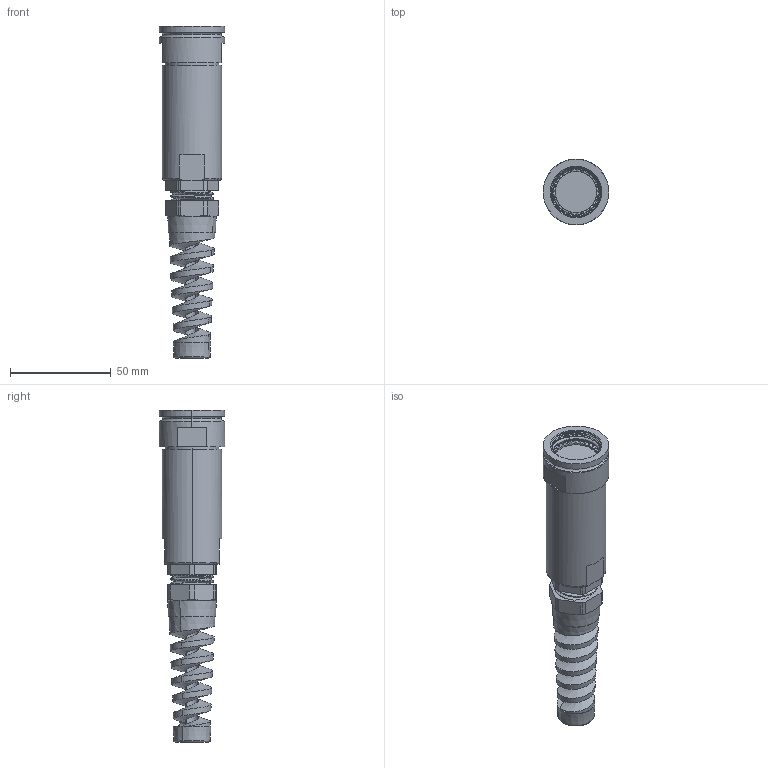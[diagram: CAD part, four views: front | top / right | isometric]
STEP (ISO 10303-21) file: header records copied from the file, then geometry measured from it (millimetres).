
FILE_DESCRIPTION (( 'STEP AP214' ), '1' );
FILE_NAME ('Q38SHELL-STX-17-XXXX-GB.STEP', '2025-09-09T22:16:08', ( '' ), ( '' ), 'SwSTEP 2.0', 'SolidWorks 2024', '' );
FILE_SCHEMA (( 'AUTOMOTIVE_DESIGN' ));
Length unit declared in the file: millimetre
Products named in the file (1): Q38SHELL-STX-17-XXXX-GB
Bounding box: 32.59 x 32.59 x 164.72 mm (x, y, z)
Volume: 72049.3 mm3; surface area: 20817.3 mm2
Topology: 2 solids, 2 shells, 279 faces, 882 edges, 621 vertices
Faces by surface type: plane 152, cylinder 69, cone 38, torus 13, bspline 7
Entity records: 14912 total; most frequent: CARTESIAN_POINT 7605, ORIENTED_EDGE 1764, DIRECTION 1315, EDGE_CURVE 882, VERTEX_POINT 621, AXIS2_PLACEMENT_3D 536, EDGE_LOOP 297, FACE_OUTER_BOUND 279
